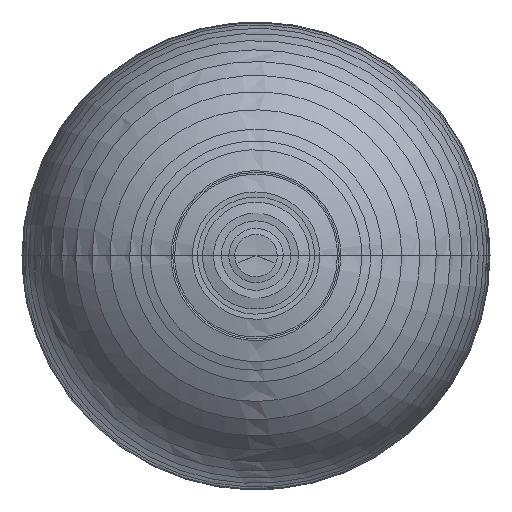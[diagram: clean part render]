
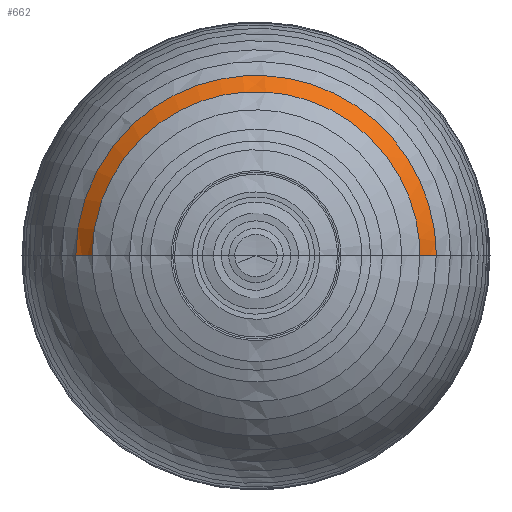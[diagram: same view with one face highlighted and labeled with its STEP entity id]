
A CAD part, top view. The second image highlights one B-rep face of the part: STEP entity #662.
In plain terms, the highlighted free-form (B-spline) face has degree [2, 3] with [9, 7] control points.
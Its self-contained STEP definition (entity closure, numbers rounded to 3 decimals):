
#662=ADVANCED_FACE('',(#1461),#11478,.T.);
#1461=FACE_OUTER_BOUND('',#2276,.T.);
#2276=EDGE_LOOP('',(#4326,#4327,#4328,#4329));
#4326=ORIENTED_EDGE('',*,*,#7178,.T.);
#4327=ORIENTED_EDGE('',*,*,#7180,.T.);
#4328=ORIENTED_EDGE('',*,*,#7179,.T.);
#4329=ORIENTED_EDGE('',*,*,#7177,.F.);
#7177=EDGE_CURVE('',#10559,#10560,#9491,.T.);
#7178=EDGE_CURVE('',#10559,#10561,#8549,.T.);
#7179=EDGE_CURVE('',#10562,#10560,#8550,.T.);
#7180=EDGE_CURVE('',#10561,#10562,#9492,.T.);
#8549=B_SPLINE_CURVE_WITH_KNOTS('',3,(#29867,#29868,#29869,#29870,#29871),
 .UNSPECIFIED.,.F.,.F.,(4,1,4),(-1.,-0.5,0.),.UNSPECIFIED.);
#8550=B_SPLINE_CURVE_WITH_KNOTS('',3,(#29872,#29873,#29874,#29875,#29876),
 .UNSPECIFIED.,.F.,.F.,(4,1,4),(-1.,-0.5,0.),
 .UNSPECIFIED.);
#9491=(
BOUNDED_CURVE()
B_SPLINE_CURVE(2,(#29862,#29863,#29864,#29865,#29866),.UNSPECIFIED.,.F.,
 .F.)
B_SPLINE_CURVE_WITH_KNOTS((3,2,3),(-360.378,-180.189,
0.),.UNSPECIFIED.)
CURVE()
GEOMETRIC_REPRESENTATION_ITEM()
RATIONAL_B_SPLINE_CURVE((1.,0.707,1.,0.707,1.))
REPRESENTATION_ITEM('')
);
#9492=(
BOUNDED_CURVE()
B_SPLINE_CURVE(2,(#29877,#29878,#29879,#29880,#29881),.UNSPECIFIED.,.F.,
 .F.)
B_SPLINE_CURVE_WITH_KNOTS((3,2,3),(-327.851,-163.925,0.),
 .UNSPECIFIED.)
CURVE()
GEOMETRIC_REPRESENTATION_ITEM()
RATIONAL_B_SPLINE_CURVE((1.,0.707,1.,0.707,1.))
REPRESENTATION_ITEM('')
);
#10559=VERTEX_POINT('',#29140);
#10560=VERTEX_POINT('',#29141);
#10561=VERTEX_POINT('',#29142);
#10562=VERTEX_POINT('',#29143);
#11478=(
BOUNDED_SURFACE()
B_SPLINE_SURFACE(2,3,((#27373,#27374,#27375,#27376,#27377,#27378,#27379),
(#27380,#27381,#27382,#27383,#27384,#27385,#27386),(#27387,#27388,#27389,
#27390,#27391,#27392,#27393),(#27394,#27395,#27396,#27397,#27398,#27399,
#27400),(#27401,#27402,#27403,#27404,#27405,#27406,#27407),(#27408,#27409,
#27410,#27411,#27412,#27413,#27414),(#27415,#27416,#27417,#27418,#27419,
#27420,#27421),(#27422,#27423,#27424,#27425,#27426,#27427,#27428),(#27429,
#27430,#27431,#27432,#27433,#27434,#27435)),.UNSPECIFIED.,.T.,.F.,.F.)
B_SPLINE_SURFACE_WITH_KNOTS((3,2,2,2,3),(4,1,1,1,4),(0.,180.607,
361.215,541.822,722.43),(0.,0.311,
7.489,14.654,14.966),.UNSPECIFIED.)
GEOMETRIC_REPRESENTATION_ITEM()
RATIONAL_B_SPLINE_SURFACE(((1.,1.,1.,1.,1.,1.,1.),(0.707,0.707,
0.707,0.707,0.707,0.707,
0.707),(1.,1.,1.,1.,1.,1.,1.),(0.707,0.707,
0.707,0.707,0.707,0.707,
0.707),(1.,1.,1.,1.,1.,1.,1.),(0.707,0.707,
0.707,0.707,0.707,0.707,
0.707),(1.,1.,1.,1.,1.,1.,1.),(0.707,0.707,
0.707,0.707,0.707,0.707,
0.707),(1.,1.,1.,1.,1.,1.,1.)))
REPRESENTATION_ITEM('')
SURFACE()
);
#27373=CARTESIAN_POINT('',(1559.874,936.526,1443.748));
#27374=CARTESIAN_POINT('',(1559.874,936.615,1443.801));
#27375=CARTESIAN_POINT('',(1559.874,938.75,1445.085));
#27376=CARTESIAN_POINT('',(1559.874,942.673,1448.052));
#27377=CARTESIAN_POINT('',(1559.874,945.86,1451.796));
#27378=CARTESIAN_POINT('',(1559.874,947.263,1453.85));
#27379=CARTESIAN_POINT('',(1559.874,947.321,1453.936));
#27380=CARTESIAN_POINT('',(1674.852,936.526,1443.748));
#27381=CARTESIAN_POINT('',(1674.763,936.615,1443.801));
#27382=CARTESIAN_POINT('',(1672.628,938.75,1445.085));
#27383=CARTESIAN_POINT('',(1668.705,942.673,1448.052));
#27384=CARTESIAN_POINT('',(1665.518,945.86,1451.796));
#27385=CARTESIAN_POINT('',(1664.114,947.263,1453.85));
#27386=CARTESIAN_POINT('',(1664.056,947.321,1453.936));
#27387=CARTESIAN_POINT('',(1674.852,1051.504,1443.748));
#27388=CARTESIAN_POINT('',(1674.763,1051.504,1443.801));
#27389=CARTESIAN_POINT('',(1672.628,1051.504,1445.085));
#27390=CARTESIAN_POINT('',(1668.705,1051.504,1448.052));
#27391=CARTESIAN_POINT('',(1665.518,1051.504,1451.796));
#27392=CARTESIAN_POINT('',(1664.114,1051.504,1453.85));
#27393=CARTESIAN_POINT('',(1664.056,1051.504,1453.936));
#27394=CARTESIAN_POINT('',(1674.852,1166.483,1443.748));
#27395=CARTESIAN_POINT('',(1674.763,1166.394,1443.801));
#27396=CARTESIAN_POINT('',(1672.628,1164.258,1445.085));
#27397=CARTESIAN_POINT('',(1668.705,1160.336,1448.052));
#27398=CARTESIAN_POINT('',(1665.518,1157.148,1451.796));
#27399=CARTESIAN_POINT('',(1664.114,1155.745,1453.85));
#27400=CARTESIAN_POINT('',(1664.056,1155.687,1453.936));
#27401=CARTESIAN_POINT('',(1559.874,1166.483,1443.748));
#27402=CARTESIAN_POINT('',(1559.874,1166.394,1443.801));
#27403=CARTESIAN_POINT('',(1559.874,1164.258,1445.085));
#27404=CARTESIAN_POINT('',(1559.874,1160.336,1448.052));
#27405=CARTESIAN_POINT('',(1559.874,1157.148,1451.796));
#27406=CARTESIAN_POINT('',(1559.874,1155.745,1453.85));
#27407=CARTESIAN_POINT('',(1559.874,1155.687,1453.936));
#27408=CARTESIAN_POINT('',(1444.895,1166.483,1443.748));
#27409=CARTESIAN_POINT('',(1444.984,1166.394,1443.801));
#27410=CARTESIAN_POINT('',(1447.12,1164.258,1445.085));
#27411=CARTESIAN_POINT('',(1451.042,1160.336,1448.052));
#27412=CARTESIAN_POINT('',(1454.23,1157.148,1451.796));
#27413=CARTESIAN_POINT('',(1455.633,1155.745,1453.85));
#27414=CARTESIAN_POINT('',(1455.691,1155.687,1453.936));
#27415=CARTESIAN_POINT('',(1444.895,1051.504,1443.748));
#27416=CARTESIAN_POINT('',(1444.984,1051.504,1443.801));
#27417=CARTESIAN_POINT('',(1447.12,1051.504,1445.085));
#27418=CARTESIAN_POINT('',(1451.042,1051.504,1448.052));
#27419=CARTESIAN_POINT('',(1454.23,1051.504,1451.796));
#27420=CARTESIAN_POINT('',(1455.633,1051.504,1453.85));
#27421=CARTESIAN_POINT('',(1455.691,1051.504,1453.936));
#27422=CARTESIAN_POINT('',(1444.895,936.526,1443.748));
#27423=CARTESIAN_POINT('',(1444.984,936.615,1443.801));
#27424=CARTESIAN_POINT('',(1447.12,938.75,1445.085));
#27425=CARTESIAN_POINT('',(1451.042,942.673,1448.052));
#27426=CARTESIAN_POINT('',(1454.23,945.86,1451.796));
#27427=CARTESIAN_POINT('',(1455.633,947.263,1453.85));
#27428=CARTESIAN_POINT('',(1455.691,947.321,1453.936));
#27429=CARTESIAN_POINT('',(1559.874,936.526,1443.748));
#27430=CARTESIAN_POINT('',(1559.874,936.615,1443.801));
#27431=CARTESIAN_POINT('',(1559.874,938.75,1445.085));
#27432=CARTESIAN_POINT('',(1559.874,942.673,1448.052));
#27433=CARTESIAN_POINT('',(1559.874,945.86,1451.796));
#27434=CARTESIAN_POINT('',(1559.874,947.263,1453.85));
#27435=CARTESIAN_POINT('',(1559.874,947.321,1453.936));
#29140=CARTESIAN_POINT('',(1445.162,1051.504,1443.908));
#29141=CARTESIAN_POINT('',(1674.586,1051.504,1443.908));
#29142=CARTESIAN_POINT('',(1455.516,1051.504,1453.68));
#29143=CARTESIAN_POINT('',(1664.232,1051.504,1453.68));
#29862=CARTESIAN_POINT('',(1445.162,1051.504,1443.908));
#29863=CARTESIAN_POINT('',(1445.162,1166.216,1443.908));
#29864=CARTESIAN_POINT('',(1559.874,1166.216,1443.908));
#29865=CARTESIAN_POINT('',(1674.586,1166.216,1443.908));
#29866=CARTESIAN_POINT('',(1674.586,1051.504,1443.908));
#29867=CARTESIAN_POINT('',(1445.162,1051.504,1443.908));
#29868=CARTESIAN_POINT('',(1447.203,1051.504,1445.148));
#29869=CARTESIAN_POINT('',(1451.042,1051.504,1448.052));
#29870=CARTESIAN_POINT('',(1454.162,1051.504,1451.717));
#29871=CARTESIAN_POINT('',(1455.516,1051.504,1453.68));
#29872=CARTESIAN_POINT('',(1664.232,1051.504,1453.68));
#29873=CARTESIAN_POINT('',(1665.585,1051.504,1451.717));
#29874=CARTESIAN_POINT('',(1668.705,1051.504,1448.052));
#29875=CARTESIAN_POINT('',(1672.544,1051.504,1445.148));
#29876=CARTESIAN_POINT('',(1674.586,1051.504,1443.908));
#29877=CARTESIAN_POINT('',(1455.516,1051.504,1453.68));
#29878=CARTESIAN_POINT('',(1455.516,1155.862,1453.68));
#29879=CARTESIAN_POINT('',(1559.874,1155.862,1453.68));
#29880=CARTESIAN_POINT('',(1664.232,1155.862,1453.68));
#29881=CARTESIAN_POINT('',(1664.232,1051.504,1453.68));
